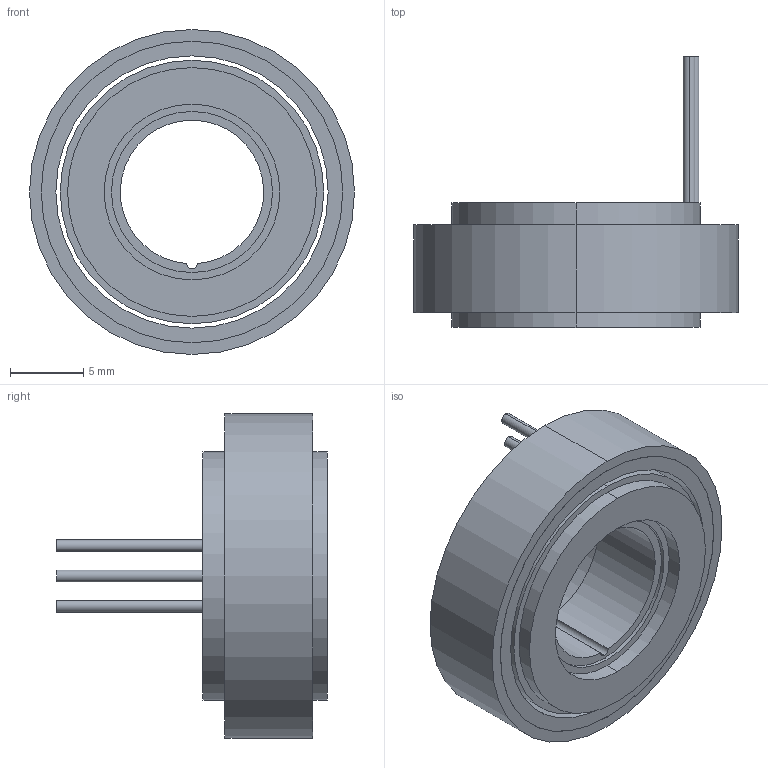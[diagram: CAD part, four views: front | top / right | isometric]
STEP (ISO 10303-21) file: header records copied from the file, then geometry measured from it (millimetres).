
FILE_DESCRIPTION (( 'STEP AP214' ), '1' );
FILE_NAME ('UE2208µç»ú.STEP', '2026-03-26T05:55:16', ( 'Windows User' ), ( 'P R C' ), 'SwSTEP 2.0', 'SolidWorks 2023', '' );
FILE_SCHEMA (( 'AUTOMOTIVE_DESIGN' ));
Length unit declared in the file: millimetre
Products named in the file (1): UE2208电机
Bounding box: 22.2 x 18.5 x 22.2 mm (x, y, z)
Volume: 2054.1 mm3; surface area: 2189 mm2
Topology: 2 solids, 2 shells, 46 faces, 93 edges, 62 vertices
Faces by surface type: cylinder 31, plane 15
Entity records: 1279 total; most frequent: DIRECTION 249, CARTESIAN_POINT 202, ORIENTED_EDGE 186, AXIS2_PLACEMENT_3D 109, EDGE_CURVE 93, CIRCLE 62, VERTEX_POINT 62, EDGE_LOOP 61
